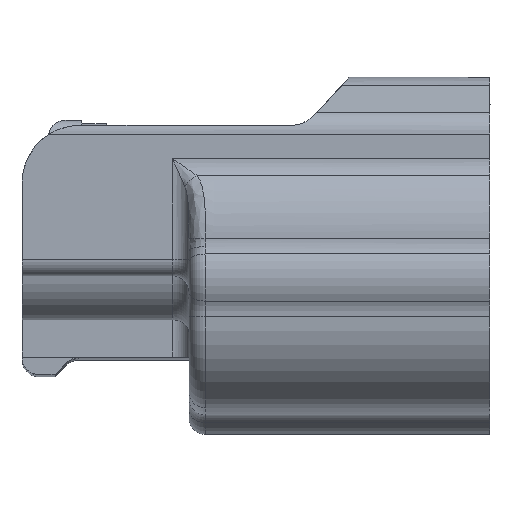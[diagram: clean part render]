
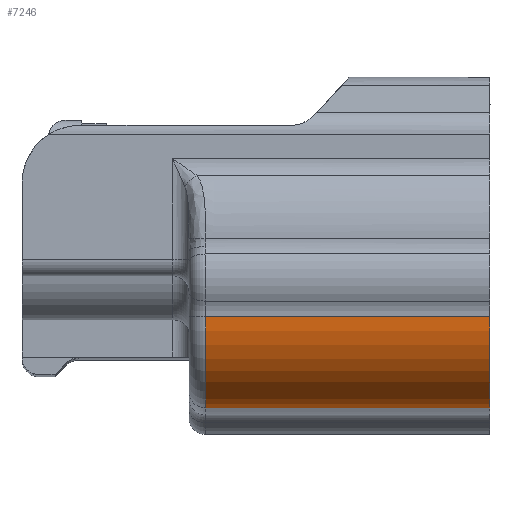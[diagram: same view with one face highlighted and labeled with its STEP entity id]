
A CAD part, front view. The second image highlights one B-rep face of the part: STEP entity #7246.
In plain terms, the highlighted cylindrical face has radius 5.6 mm (diameter 11.2 mm), a partial arc.
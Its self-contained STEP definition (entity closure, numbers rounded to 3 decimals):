
#7083=CARTESIAN_POINT('Vertex',(16.7,-10.1,-2.368)) ;
#7086=CARTESIAN_POINT('Axis2P3D Location',(16.7,-4.5,-2.348)) ;
#7090=CARTESIAN_POINT('Vertex',(16.7,-5.369,-7.881)) ;
#7204=CARTESIAN_POINT('Line Origine',(8.35,-5.369,-7.881)) ;
#7208=CARTESIAN_POINT('Vertex',(-0.5,-5.369,-7.881)) ;
#7223=CARTESIAN_POINT('Axis2P3D Location',(0.,-4.5,-2.348)) ;
#7228=CARTESIAN_POINT('Line Origine',(8.35,-10.1,-2.368)) ;
#7232=CARTESIAN_POINT('Vertex',(-0.5,-10.1,-2.368)) ;
#7235=CARTESIAN_POINT('Axis2P3D Location',(-0.5,-4.5,-2.348)) ;
#7087=DIRECTION('Axis2P3D Direction',(-1.,0.,0.)) ;
#7205=DIRECTION('Vector Direction',(1.,0.,0.)) ;
#7224=DIRECTION('Axis2P3D Direction',(1.,0.,0.)) ;
#7225=DIRECTION('Axis2P3D XDirection',(0.,-1.,-0.004)) ;
#7229=DIRECTION('Vector Direction',(1.,0.,0.)) ;
#7236=DIRECTION('Axis2P3D Direction',(1.,0.,0.)) ;
#7088=AXIS2_PLACEMENT_3D('Circle Axis2P3D',#7086,#7087,$) ;
#7226=AXIS2_PLACEMENT_3D('Cylinder Axis2P3D',#7223,#7224,#7225) ;
#7237=AXIS2_PLACEMENT_3D('Circle Axis2P3D',#7235,#7236,$) ;
#7241=ORIENTED_EDGE('',*,*,#7210,.T.) ;
#7242=ORIENTED_EDGE('',*,*,#7092,.T.) ;
#7243=ORIENTED_EDGE('',*,*,#7234,.F.) ;
#7244=ORIENTED_EDGE('',*,*,#7239,.T.) ;
#7206=VECTOR('Line Direction',#7205,1.) ;
#7230=VECTOR('Line Direction',#7229,1.) ;
#7246=ADVANCED_FACE('6189-0552',(#7245),#7227,.T.) ;
#7089=CIRCLE('generated circle',#7088,5.6) ;
#7238=CIRCLE('generated circle',#7237,5.6) ;
#7227=CYLINDRICAL_SURFACE('generated cylinder',#7226,5.6) ;
#7092=EDGE_CURVE('',#7091,#7084,#7089,.T.) ;
#7210=EDGE_CURVE('',#7209,#7091,#7207,.T.) ;
#7234=EDGE_CURVE('',#7233,#7084,#7231,.T.) ;
#7239=EDGE_CURVE('',#7233,#7209,#7238,.T.) ;
#7240=EDGE_LOOP('',(#7241,#7242,#7243,#7244)) ;
#7245=FACE_OUTER_BOUND('',#7240,.T.) ;
#7207=LINE('Line',#7204,#7206) ;
#7231=LINE('Line',#7228,#7230) ;
#7084=VERTEX_POINT('',#7083) ;
#7091=VERTEX_POINT('',#7090) ;
#7209=VERTEX_POINT('',#7208) ;
#7233=VERTEX_POINT('',#7232) ;
